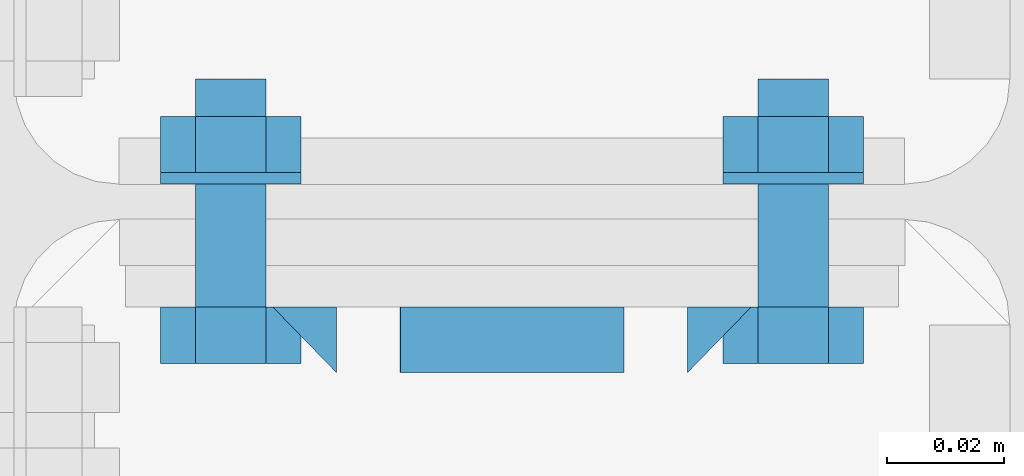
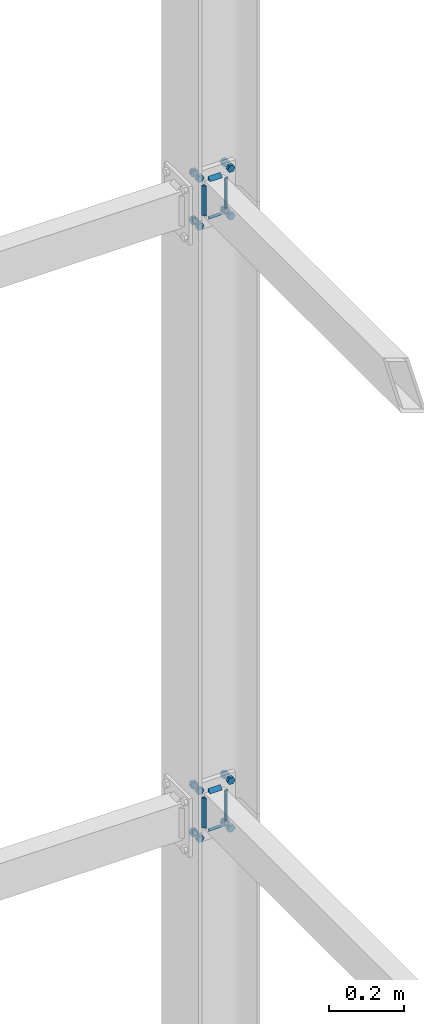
# One storey, part 226 of 251: 32 mechanical fasteners, 16 fasteners.
"""IFC4 building model written with IfcOpenShell, lengths in metres."""

from ifc_helpers import new_model, si_unit, frame, origin_with_axes, place, context, project, spatial, polyline, outline, extrude, type_object, element, save


model = new_model("IFC4")

# Units and contexts
model_context = context("Model", 3, precision=1e-05, world=origin_with_axes())
ifc_project = project(units=[si_unit("LENGTHUNIT", "METRE"), si_unit("AREAUNIT", "SQUARE_METRE"), si_unit("VOLUMEUNIT", "CUBIC_METRE"), si_unit("MASSUNIT", "GRAM", prefix="KILO"), si_unit("TIMEUNIT", "SECOND"), si_unit("PLANEANGLEUNIT", "RADIAN"), si_unit("SOLIDANGLEUNIT", "STERADIAN"), si_unit("THERMODYNAMICTEMPERATUREUNIT", "DEGREE_CELSIUS")], contexts=[model_context])

# Site, building, storey
placement_1 = place(None, origin_with_axes())
site = spatial("IfcSite", under=ifc_project, at=placement_1, Name="Italia", CompositionType="ELEMENT")
building = spatial("IfcBuilding", under=site, at=placement_1, Name="Deposito", CompositionType="ELEMENT")
storey = spatial("IfcBuildingStorey", under=building, at=placement_1, Name="Storey 0", CompositionType="ELEMENT", Elevation=0.0)

# Fasteners
fastener_type_1 = type_object("IfcFastenerType", Name="Collegamenti -001_-002 -002_-001 -002_-003 -003_-002 -003_-004 -004_-003 -004_-008 -008_-004 -009_-010 -010_-009 -010_-011 -011_-010 -011_-012 -012_-011 -012_-016 -016_-012", PredefinedType="WELD")
placement_2 = place(placement_1, origin_with_axes())
fastener_1_placement = place(placement_2, origin_with_axes())
element("IfcFastener", 1, at=fastener_1_placement, inside=storey, type_object=fastener_type_1, Name="Collegamenti -001_-002 -002_-001 -002_-003 -003_-002 -003_-004 -004_-003 -004_-008 -008_-004 -009_-010 -010_-009 -010_-011 -011_-010 -011_-012 -012_-011 -012_-016 -016_-012", context=model_context, shape_type="SweptSolid", body=[
    extrude(outline(polyline([(0.0, 0.0), (0.0111732, -0.0108382), (0.0, -0.0108382), (0.0, 0.0)])), frame((20.0191, 19.982, 1.07079), z_axis=(-1.0, 0.0, 0.0), x_axis=(0.0, -1.0, 0.0)), (0.0, 0.0, 1.0), 0.0381012),
])
fastener_type_2 = type_object("IfcFastenerType", Name="Collegamenti -001_-002 -002_-001 -002_-003 -003_-002 -003_-004 -004_-003 -004_-008 -008_-004 -009_-010 -010_-009 -010_-011 -011_-010 -011_-012 -012_-011 -012_-016 -016_-012", PredefinedType="WELD")
fastener_2_placement = place(placement_2, origin_with_axes())
element("IfcFastener", 2, at=fastener_2_placement, inside=storey, type_object=fastener_type_2, Name="Collegamenti -001_-002 -002_-001 -002_-003 -003_-002 -003_-004 -004_-003 -004_-008 -008_-004 -009_-010 -010_-009 -010_-011 -011_-010 -011_-012 -012_-011 -012_-016 -016_-012", context=model_context, shape_type="SweptSolid", body=[
    extrude(outline(polyline([(0.0, 0.0), (-0.0111732, 0.0108376), (0.0, 0.0108376), (0.0, 0.0)])), frame((20.0408, 19.982, 0.95095), z_axis=(0.0, 0.0, 1.0), x_axis=(0.0, 1.0, 0.0)), (0.0, 0.0, 1.0), 0.0980999),
])
fastener_type_3 = type_object("IfcFastenerType", Name="Collegamenti -001_-002 -002_-001 -002_-003 -003_-002 -003_-004 -004_-003 -004_-008 -008_-004 -009_-010 -010_-009 -010_-011 -011_-010 -011_-012 -012_-011 -012_-016 -016_-012", PredefinedType="WELD")
fastener_3_placement = place(placement_2, origin_with_axes())
element("IfcFastener", 3, at=fastener_3_placement, inside=storey, type_object=fastener_type_3, Name="Collegamenti -001_-002 -002_-001 -002_-003 -003_-002 -003_-004 -004_-003 -004_-008 -008_-004 -009_-010 -010_-009 -010_-011 -011_-010 -011_-012 -012_-011 -012_-016 -016_-012", context=model_context, shape_type="SweptSolid", body=[
    extrude(outline(polyline([(0.0, 0.0), (-0.0111732, 0.0108376), (0.0, 0.0108376), (0.0, 0.0)])), frame((19.9592, 19.982, 1.04905), z_axis=(0.0, 0.0, -1.0), x_axis=(0.0, 1.0, 0.0)), (0.0, 0.0, 1.0), 0.0980999),
])
fastener_type_4 = type_object("IfcFastenerType", Name="Collegamenti -001_-002 -002_-001 -002_-003 -003_-002 -003_-004 -004_-003 -004_-008 -008_-004 -009_-010 -010_-009 -010_-011 -011_-010 -011_-012 -012_-011 -012_-016 -016_-012", PredefinedType="WELD")
fastener_4_placement = place(placement_2, origin_with_axes())
element("IfcFastener", 4, at=fastener_4_placement, inside=storey, type_object=fastener_type_4, Name="Collegamenti -001_-002 -002_-001 -002_-003 -003_-002 -003_-004 -004_-003 -004_-008 -008_-004 -009_-010 -010_-009 -010_-011 -011_-010 -011_-012 -012_-011 -012_-016 -016_-012", context=model_context, shape_type="SweptSolid", body=[
    extrude(outline(polyline([(0.0, 0.0), (-0.0111732, 0.0108382), (0.0, 0.0108382), (0.0, 0.0)])), frame((19.9809, 19.982, 0.929212), z_axis=(1.0, 0.0, 0.0), x_axis=(0.0, 1.0, 0.0)), (0.0, 0.0, 1.0), 0.0381012),
])
fastener_type_5 = type_object("IfcFastenerType", Name="Collegamenti -001_-002 -002_-001 -002_-003 -003_-002 -003_-004 -004_-003 -004_-008 -008_-004 -009_-010 -010_-009 -010_-011 -011_-010 -011_-012 -012_-011 -012_-016 -016_-012", PredefinedType="WELD")
fastener_5_placement = place(placement_2, origin_with_axes())
element("IfcFastener", 5, at=fastener_5_placement, inside=storey, type_object=fastener_type_5, Name="Collegamenti -001_-002 -002_-001 -002_-003 -003_-002 -003_-004 -004_-003 -004_-008 -008_-004 -009_-010 -010_-009 -010_-011 -011_-010 -011_-012 -012_-011 -012_-016 -016_-012", context=model_context, shape_type="SweptSolid", body=[
    extrude(outline(polyline([(0.0, 0.0), (0.0111732, -0.0108382), (0.0, -0.0108382), (0.0, 0.0)])), frame((20.0191, 19.982, 1.07079), z_axis=(-1.0, 0.0, 0.0), x_axis=(0.0, -1.0, 0.0)), (0.0, 0.0, 1.0), 0.0381012),
])
fastener_type_6 = type_object("IfcFastenerType", Name="Collegamenti -001_-002 -002_-001 -002_-003 -003_-002 -003_-004 -004_-003 -004_-008 -008_-004 -009_-010 -010_-009 -010_-011 -011_-010 -011_-012 -012_-011 -012_-016 -016_-012", PredefinedType="WELD")
fastener_6_placement = place(placement_2, origin_with_axes())
element("IfcFastener", 6, at=fastener_6_placement, inside=storey, type_object=fastener_type_6, Name="Collegamenti -001_-002 -002_-001 -002_-003 -003_-002 -003_-004 -004_-003 -004_-008 -008_-004 -009_-010 -010_-009 -010_-011 -011_-010 -011_-012 -012_-011 -012_-016 -016_-012", context=model_context, shape_type="SweptSolid", body=[
    extrude(outline(polyline([(0.0, 0.0), (-0.0111732, 0.0108376), (0.0, 0.0108376), (0.0, 0.0)])), frame((20.0408, 19.982, 0.95095), z_axis=(0.0, 0.0, 1.0), x_axis=(0.0, 1.0, 0.0)), (0.0, 0.0, 1.0), 0.0980999),
])
fastener_type_7 = type_object("IfcFastenerType", Name="Collegamenti -001_-002 -002_-001 -002_-003 -003_-002 -003_-004 -004_-003 -004_-008 -008_-004 -009_-010 -010_-009 -010_-011 -011_-010 -011_-012 -012_-011 -012_-016 -016_-012", PredefinedType="WELD")
fastener_7_placement = place(placement_2, origin_with_axes())
element("IfcFastener", 7, at=fastener_7_placement, inside=storey, type_object=fastener_type_7, Name="Collegamenti -001_-002 -002_-001 -002_-003 -003_-002 -003_-004 -004_-003 -004_-008 -008_-004 -009_-010 -010_-009 -010_-011 -011_-010 -011_-012 -012_-011 -012_-016 -016_-012", context=model_context, shape_type="SweptSolid", body=[
    extrude(outline(polyline([(0.0, 0.0), (-0.0111732, 0.0108376), (0.0, 0.0108376), (0.0, 0.0)])), frame((19.9592, 19.982, 1.04905), z_axis=(0.0, 0.0, -1.0), x_axis=(0.0, 1.0, 0.0)), (0.0, 0.0, 1.0), 0.0980999),
])
fastener_type_8 = type_object("IfcFastenerType", Name="Collegamenti -001_-002 -002_-001 -002_-003 -003_-002 -003_-004 -004_-003 -004_-008 -008_-004 -009_-010 -010_-009 -010_-011 -011_-010 -011_-012 -012_-011 -012_-016 -016_-012", PredefinedType="WELD")
fastener_8_placement = place(placement_2, origin_with_axes())
element("IfcFastener", 8, at=fastener_8_placement, inside=storey, type_object=fastener_type_8, Name="Collegamenti -001_-002 -002_-001 -002_-003 -003_-002 -003_-004 -004_-003 -004_-008 -008_-004 -009_-010 -010_-009 -010_-011 -011_-010 -011_-012 -012_-011 -012_-016 -016_-012", context=model_context, shape_type="SweptSolid", body=[
    extrude(outline(polyline([(0.0, 0.0), (-0.0111732, 0.0108382), (0.0, 0.0108382), (0.0, 0.0)])), frame((19.9809, 19.982, 0.929212), z_axis=(1.0, 0.0, 0.0), x_axis=(0.0, 1.0, 0.0)), (0.0, 0.0, 1.0), 0.0381012),
])

# Mechanical fasteners
mechanical_fastener_type_1 = type_object("IfcMechanicalFastenerType", Name="Collegamenti -001_-002 -002_-001 -002_-003 -003_-002 -003_-004 -004_-003 -004_-008 -008_-004 -009_-010 -010_-009 -010_-011 -011_-010 -011_-012 -012_-011 -012_-016 -016_-012", PredefinedType="BOLT")
mechanical_fastener_1_placement = place(placement_2, origin_with_axes())
element("IfcMechanicalFastener", 9, at=mechanical_fastener_1_placement, inside=storey, type_object=mechanical_fastener_type_1, Name="Collegamenti -001_-002 -002_-001 -002_-003 -003_-002 -003_-004 -004_-003 -004_-008 -008_-004 -009_-010 -010_-009 -010_-011 -011_-010 -011_-012 -012_-011 -012_-016 -016_-012", NominalDiameter=0.0119993, context=model_context, shape_type="SweptSolid", body=[
    extrude(outline(polyline([(0.0, 0.0), (-0.012001, 0.0), (-0.0179996, 0.0103923), (-0.012001, 0.0207846), (0.0, 0.0207846), (0.00600052, 0.0103923), (0.0, 0.0)])), frame((19.958, 19.982, 0.911608), z_axis=(0.0, -1.0, 0.0), x_axis=(1.0, 0.0, 0.0)), (0.0, 0.0, 1.0), 0.00959969),
])
mechanical_fastener_type_2 = type_object("IfcMechanicalFastenerType", Name="Collegamenti -001_-002 -002_-001 -002_-003 -003_-002 -003_-004 -004_-003 -004_-008 -008_-004 -009_-010 -010_-009 -010_-011 -011_-010 -011_-012 -012_-011 -012_-016 -016_-012", PredefinedType="BOLT")
mechanical_fastener_2_placement = place(placement_2, origin_with_axes())
element("IfcMechanicalFastener", 10, at=mechanical_fastener_2_placement, inside=storey, type_object=mechanical_fastener_type_2, Name="Collegamenti -001_-002 -002_-001 -002_-003 -003_-002 -003_-004 -004_-003 -004_-008 -008_-004 -009_-010 -010_-009 -010_-011 -011_-010 -011_-012 -012_-011 -012_-016 -016_-012", NominalDiameter=0.012, context=model_context, shape_type="SweptSolid", body=[
    extrude(outline(polyline([(0.0, 0.0), (-0.000204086, -0.00155294), (-0.000804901, -0.00300002), (-0.00175858, -0.00424266), (-0.00300026, -0.00519615), (-0.00444794, -0.00579554), (-0.00600052, -0.00599998), (-0.0075531, -0.00579554), (-0.00900078, -0.00519615), (-0.0102425, -0.00424266), (-0.0111961, -0.00300002), (-0.011797, -0.00155294), (-0.012001, 0.0), (-0.011797, 0.00155294), (-0.0111961, 0.00300002), (-0.0102425, 0.00424266), (-0.00900078, 0.00519615), (-0.0075531, 0.00579554), (-0.00600052, 0.00599998), (-0.00444794, 0.00579554), (-0.00300026, 0.00519615), (-0.00175858, 0.00424266), (-0.000804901, 0.00300002), (-0.000204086, 0.00155294), (0.0, 0.0)])), frame((19.958, 20.021, 0.922), z_axis=(0.0, -1.0, 0.0), x_axis=(1.0, 0.0, 0.0)), (0.0, 0.0, 1.0), 0.0389996),
])
mechanical_fastener_type_3 = type_object("IfcMechanicalFastenerType", Name="Collegamenti -001_-002 -002_-001 -002_-003 -003_-002 -003_-004 -004_-003 -004_-008 -008_-004 -009_-010 -010_-009 -010_-011 -011_-010 -011_-012 -012_-011 -012_-016 -016_-012", PredefinedType="BOLT")
mechanical_fastener_3_placement = place(placement_2, origin_with_axes())
element("IfcMechanicalFastener", 11, at=mechanical_fastener_3_placement, inside=storey, type_object=mechanical_fastener_type_3, Name="Collegamenti -001_-002 -002_-001 -002_-003 -003_-002 -003_-004 -004_-003 -004_-008 -008_-004 -009_-010 -010_-009 -010_-011 -011_-010 -011_-012 -012_-011 -012_-016 -016_-012", NominalDiameter=0.0119993, context=model_context, shape_type="SweptSolid", body=[
    extrude(outline(polyline([(0.0, 0.0), (-0.012001, 0.0), (-0.0179996, 0.0103923), (-0.012001, 0.0207846), (0.0, 0.0207846), (0.00600052, 0.0103923), (0.0, 0.0)])), frame((19.958, 20.0146, 0.911608), z_axis=(0.0, -1.0, 0.0), x_axis=(1.0, 0.0, 0.0)), (0.0, 0.0, 1.0), 0.00960159),
])
mechanical_fastener_type_4 = type_object("IfcMechanicalFastenerType", Name="Collegamenti -001_-002 -002_-001 -002_-003 -003_-002 -003_-004 -004_-003 -004_-008 -008_-004 -009_-010 -010_-009 -010_-011 -011_-010 -011_-012 -012_-011 -012_-016 -016_-012", PredefinedType="BOLT")
mechanical_fastener_4_placement = place(placement_2, origin_with_axes())
element("IfcMechanicalFastener", 12, at=mechanical_fastener_4_placement, inside=storey, type_object=mechanical_fastener_type_4, Name="Collegamenti -001_-002 -002_-001 -002_-003 -003_-002 -003_-004 -004_-003 -004_-008 -008_-004 -009_-010 -010_-009 -010_-011 -011_-010 -011_-012 -012_-011 -012_-016 -016_-012", NominalDiameter=0.024, context=model_context, shape_type="SweptSolid", body=[
    extrude(outline(polyline([(0.0, 0.0), (-0.000408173, -0.00310582), (-0.00160599, -0.00599998), (-0.00351334, -0.00848526), (-0.00599861, -0.0103923), (-0.00889397, -0.0115911), (-0.0119991, -0.012), (-0.0151043, -0.0115911), (-0.0179996, -0.0103923), (-0.0204849, -0.00848526), (-0.0223923, -0.00599998), (-0.0235901, -0.00310582), (-0.0239983, 0.0), (-0.0235901, 0.00310582), (-0.0223923, 0.00599998), (-0.0204849, 0.00848526), (-0.0179996, 0.0103923), (-0.0151043, 0.0115911), (-0.0119991, 0.012), (-0.00889397, 0.0115911), (-0.00599861, 0.0103923), (-0.00351334, 0.00848526), (-0.00160599, 0.00599998), (-0.000408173, 0.00310582), (0.0, 0.0)])), frame((19.964, 20.005, 0.922), z_axis=(0.0, -1.0, 0.0), x_axis=(1.0, 0.0, 0.0)), (0.0, 0.0, 1.0), 0.0019989),
])
mechanical_fastener_type_5 = type_object("IfcMechanicalFastenerType", Name="Collegamenti -001_-002 -002_-001 -002_-003 -003_-002 -003_-004 -004_-003 -004_-008 -008_-004 -009_-010 -010_-009 -010_-011 -011_-010 -011_-012 -012_-011 -012_-016 -016_-012", PredefinedType="BOLT")
mechanical_fastener_5_placement = place(placement_2, origin_with_axes())
element("IfcMechanicalFastener", 13, at=mechanical_fastener_5_placement, inside=storey, type_object=mechanical_fastener_type_5, Name="Collegamenti -001_-002 -002_-001 -002_-003 -003_-002 -003_-004 -004_-003 -004_-008 -008_-004 -009_-010 -010_-009 -010_-011 -011_-010 -011_-012 -012_-011 -012_-016 -016_-012", NominalDiameter=0.0119993, context=model_context, shape_type="SweptSolid", body=[
    extrude(outline(polyline([(0.0, 0.0), (-0.012001, 0.0), (-0.0180016, 0.0103923), (-0.012001, 0.0207846), (0.0, 0.0207846), (0.00599861, 0.0103923), (0.0, 0.0)])), frame((20.054, 19.982, 0.911608), z_axis=(0.0, -1.0, 0.0), x_axis=(1.0, 0.0, 0.0)), (0.0, 0.0, 1.0), 0.00959969),
])
mechanical_fastener_type_6 = type_object("IfcMechanicalFastenerType", Name="Collegamenti -001_-002 -002_-001 -002_-003 -003_-002 -003_-004 -004_-003 -004_-008 -008_-004 -009_-010 -010_-009 -010_-011 -011_-010 -011_-012 -012_-011 -012_-016 -016_-012", PredefinedType="BOLT")
mechanical_fastener_6_placement = place(placement_2, origin_with_axes())
element("IfcMechanicalFastener", 14, at=mechanical_fastener_6_placement, inside=storey, type_object=mechanical_fastener_type_6, Name="Collegamenti -001_-002 -002_-001 -002_-003 -003_-002 -003_-004 -004_-003 -004_-008 -008_-004 -009_-010 -010_-009 -010_-011 -011_-010 -011_-012 -012_-011 -012_-016 -016_-012", NominalDiameter=0.012, context=model_context, shape_type="SweptSolid", body=[
    extrude(outline(polyline([(0.0, 0.0), (-0.000204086, -0.00155294), (-0.000804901, -0.00300002), (-0.00175858, -0.00424266), (-0.00300026, -0.00519615), (-0.00444794, -0.00579554), (-0.00600052, -0.00599998), (-0.0075531, -0.00579554), (-0.00900078, -0.00519615), (-0.0102425, -0.00424266), (-0.0111961, -0.00300002), (-0.011797, -0.00155294), (-0.012001, 0.0), (-0.011797, 0.00155294), (-0.0111961, 0.00300002), (-0.0102425, 0.00424266), (-0.00900078, 0.00519615), (-0.0075531, 0.00579554), (-0.00600052, 0.00599998), (-0.00444794, 0.00579554), (-0.00300026, 0.00519615), (-0.00175858, 0.00424266), (-0.000804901, 0.00300002), (-0.000204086, 0.00155294), (0.0, 0.0)])), frame((20.054, 20.021, 0.922), z_axis=(0.0, -1.0, 0.0), x_axis=(1.0, 0.0, 0.0)), (0.0, 0.0, 1.0), 0.0389996),
])
mechanical_fastener_type_7 = type_object("IfcMechanicalFastenerType", Name="Collegamenti -001_-002 -002_-001 -002_-003 -003_-002 -003_-004 -004_-003 -004_-008 -008_-004 -009_-010 -010_-009 -010_-011 -011_-010 -011_-012 -012_-011 -012_-016 -016_-012", PredefinedType="BOLT")
mechanical_fastener_7_placement = place(placement_2, origin_with_axes())
element("IfcMechanicalFastener", 15, at=mechanical_fastener_7_placement, inside=storey, type_object=mechanical_fastener_type_7, Name="Collegamenti -001_-002 -002_-001 -002_-003 -003_-002 -003_-004 -004_-003 -004_-008 -008_-004 -009_-010 -010_-009 -010_-011 -011_-010 -011_-012 -012_-011 -012_-016 -016_-012", NominalDiameter=0.0119993, context=model_context, shape_type="SweptSolid", body=[
    extrude(outline(polyline([(0.0, 0.0), (-0.012001, 0.0), (-0.0180016, 0.0103923), (-0.012001, 0.0207846), (0.0, 0.0207846), (0.00599861, 0.0103923), (0.0, 0.0)])), frame((20.054, 20.0146, 0.911608), z_axis=(0.0, -1.0, 0.0), x_axis=(1.0, 0.0, 0.0)), (0.0, 0.0, 1.0), 0.00960159),
])
mechanical_fastener_type_8 = type_object("IfcMechanicalFastenerType", Name="Collegamenti -001_-002 -002_-001 -002_-003 -003_-002 -003_-004 -004_-003 -004_-008 -008_-004 -009_-010 -010_-009 -010_-011 -011_-010 -011_-012 -012_-011 -012_-016 -016_-012", PredefinedType="BOLT")
mechanical_fastener_8_placement = place(placement_2, origin_with_axes())
element("IfcMechanicalFastener", 16, at=mechanical_fastener_8_placement, inside=storey, type_object=mechanical_fastener_type_8, Name="Collegamenti -001_-002 -002_-001 -002_-003 -003_-002 -003_-004 -004_-003 -004_-008 -008_-004 -009_-010 -010_-009 -010_-011 -011_-010 -011_-012 -012_-011 -012_-016 -016_-012", NominalDiameter=0.024, context=model_context, shape_type="SweptSolid", body=[
    extrude(outline(polyline([(0.0, 0.0), (-0.000408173, -0.00310582), (-0.00160599, -0.00599998), (-0.00351334, -0.00848526), (-0.00599861, -0.0103923), (-0.00889397, -0.0115911), (-0.0119991, -0.012), (-0.0151043, -0.0115911), (-0.0179996, -0.0103923), (-0.0204849, -0.00848526), (-0.0223923, -0.00599998), (-0.0235901, -0.00310582), (-0.0239983, 0.0), (-0.0235901, 0.00310582), (-0.0223923, 0.00599998), (-0.0204849, 0.00848526), (-0.0179996, 0.0103923), (-0.0151043, 0.0115911), (-0.0119991, 0.012), (-0.00889397, 0.0115911), (-0.00599861, 0.0103923), (-0.00351334, 0.00848526), (-0.00160599, 0.00599998), (-0.000408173, 0.00310582), (0.0, 0.0)])), frame((20.06, 20.005, 0.922), z_axis=(0.0, -1.0, 0.0), x_axis=(1.0, 0.0, 0.0)), (0.0, 0.0, 1.0), 0.0019989),
])
mechanical_fastener_type_9 = type_object("IfcMechanicalFastenerType", Name="Collegamenti -001_-002 -002_-001 -002_-003 -003_-002 -003_-004 -004_-003 -004_-008 -008_-004 -009_-010 -010_-009 -010_-011 -011_-010 -011_-012 -012_-011 -012_-016 -016_-012", PredefinedType="BOLT")
mechanical_fastener_9_placement = place(placement_2, origin_with_axes())
element("IfcMechanicalFastener", 17, at=mechanical_fastener_9_placement, inside=storey, type_object=mechanical_fastener_type_9, Name="Collegamenti -001_-002 -002_-001 -002_-003 -003_-002 -003_-004 -004_-003 -004_-008 -008_-004 -009_-010 -010_-009 -010_-011 -011_-010 -011_-012 -012_-011 -012_-016 -016_-012", NominalDiameter=0.0119993, context=model_context, shape_type="SweptSolid", body=[
    extrude(outline(polyline([(0.0, 0.0), (-0.012001, 0.0), (-0.0179996, 0.0103923), (-0.012001, 0.0207846), (0.0, 0.0207846), (0.00600052, 0.0103923), (0.0, 0.0)])), frame((19.958, 19.982, 1.06761), z_axis=(0.0, -1.0, 0.0), x_axis=(1.0, 0.0, 0.0)), (0.0, 0.0, 1.0), 0.00959969),
])
mechanical_fastener_type_10 = type_object("IfcMechanicalFastenerType", Name="Collegamenti -001_-002 -002_-001 -002_-003 -003_-002 -003_-004 -004_-003 -004_-008 -008_-004 -009_-010 -010_-009 -010_-011 -011_-010 -011_-012 -012_-011 -012_-016 -016_-012", PredefinedType="BOLT")
mechanical_fastener_10_placement = place(placement_2, origin_with_axes())
element("IfcMechanicalFastener", 18, at=mechanical_fastener_10_placement, inside=storey, type_object=mechanical_fastener_type_10, Name="Collegamenti -001_-002 -002_-001 -002_-003 -003_-002 -003_-004 -004_-003 -004_-008 -008_-004 -009_-010 -010_-009 -010_-011 -011_-010 -011_-012 -012_-011 -012_-016 -016_-012", NominalDiameter=0.012, context=model_context, shape_type="SweptSolid", body=[
    extrude(outline(polyline([(0.0, 0.0), (-0.000204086, -0.00155294), (-0.000804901, -0.00300002), (-0.00175858, -0.00424266), (-0.00300026, -0.00519609), (-0.00444794, -0.0057956), (-0.00600052, -0.00600004), (-0.0075531, -0.0057956), (-0.00900078, -0.00519609), (-0.0102425, -0.00424266), (-0.0111961, -0.00300002), (-0.011797, -0.00155294), (-0.012001, 0.0), (-0.011797, 0.00155294), (-0.0111961, 0.00300002), (-0.0102425, 0.00424266), (-0.00900078, 0.00519609), (-0.0075531, 0.0057956), (-0.00600052, 0.00600004), (-0.00444794, 0.0057956), (-0.00300026, 0.00519609), (-0.00175858, 0.00424266), (-0.000804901, 0.00300002), (-0.000204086, 0.00155294), (0.0, 0.0)])), frame((19.958, 20.021, 1.078), z_axis=(0.0, -1.0, 0.0), x_axis=(1.0, 0.0, 0.0)), (0.0, 0.0, 1.0), 0.0389996),
])
mechanical_fastener_type_11 = type_object("IfcMechanicalFastenerType", Name="Collegamenti -001_-002 -002_-001 -002_-003 -003_-002 -003_-004 -004_-003 -004_-008 -008_-004 -009_-010 -010_-009 -010_-011 -011_-010 -011_-012 -012_-011 -012_-016 -016_-012", PredefinedType="BOLT")
mechanical_fastener_11_placement = place(placement_2, origin_with_axes())
element("IfcMechanicalFastener", 19, at=mechanical_fastener_11_placement, inside=storey, type_object=mechanical_fastener_type_11, Name="Collegamenti -001_-002 -002_-001 -002_-003 -003_-002 -003_-004 -004_-003 -004_-008 -008_-004 -009_-010 -010_-009 -010_-011 -011_-010 -011_-012 -012_-011 -012_-016 -016_-012", NominalDiameter=0.0119993, context=model_context, shape_type="SweptSolid", body=[
    extrude(outline(polyline([(0.0, 0.0), (-0.012001, 0.0), (-0.0179996, 0.0103923), (-0.012001, 0.0207846), (0.0, 0.0207846), (0.00600052, 0.0103923), (0.0, 0.0)])), frame((19.958, 20.0146, 1.06761), z_axis=(0.0, -1.0, 0.0), x_axis=(1.0, 0.0, 0.0)), (0.0, 0.0, 1.0), 0.00960159),
])
mechanical_fastener_type_12 = type_object("IfcMechanicalFastenerType", Name="Collegamenti -001_-002 -002_-001 -002_-003 -003_-002 -003_-004 -004_-003 -004_-008 -008_-004 -009_-010 -010_-009 -010_-011 -011_-010 -011_-012 -012_-011 -012_-016 -016_-012", PredefinedType="BOLT")
mechanical_fastener_12_placement = place(placement_2, origin_with_axes())
element("IfcMechanicalFastener", 20, at=mechanical_fastener_12_placement, inside=storey, type_object=mechanical_fastener_type_12, Name="Collegamenti -001_-002 -002_-001 -002_-003 -003_-002 -003_-004 -004_-003 -004_-008 -008_-004 -009_-010 -010_-009 -010_-011 -011_-010 -011_-012 -012_-011 -012_-016 -016_-012", NominalDiameter=0.024, context=model_context, shape_type="SweptSolid", body=[
    extrude(outline(polyline([(0.0, 0.0), (-0.000408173, -0.00310588), (-0.00160599, -0.00600004), (-0.00351334, -0.00848532), (-0.00599861, -0.0103923), (-0.00889397, -0.0115911), (-0.0119991, -0.012), (-0.0151043, -0.0115911), (-0.0179996, -0.0103923), (-0.0204849, -0.00848532), (-0.0223923, -0.00600004), (-0.0235901, -0.00310588), (-0.0239983, 0.0), (-0.0235901, 0.00310588), (-0.0223923, 0.00600004), (-0.0204849, 0.00848532), (-0.0179996, 0.0103923), (-0.0151043, 0.0115911), (-0.0119991, 0.012), (-0.00889397, 0.0115911), (-0.00599861, 0.0103923), (-0.00351334, 0.00848532), (-0.00160599, 0.00600004), (-0.000408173, 0.00310588), (0.0, 0.0)])), frame((19.964, 20.005, 1.078), z_axis=(0.0, -1.0, 0.0), x_axis=(1.0, 0.0, 0.0)), (0.0, 0.0, 1.0), 0.0019989),
])
mechanical_fastener_type_13 = type_object("IfcMechanicalFastenerType", Name="Collegamenti -001_-002 -002_-001 -002_-003 -003_-002 -003_-004 -004_-003 -004_-008 -008_-004 -009_-010 -010_-009 -010_-011 -011_-010 -011_-012 -012_-011 -012_-016 -016_-012", PredefinedType="BOLT")
mechanical_fastener_13_placement = place(placement_2, origin_with_axes())
element("IfcMechanicalFastener", 21, at=mechanical_fastener_13_placement, inside=storey, type_object=mechanical_fastener_type_13, Name="Collegamenti -001_-002 -002_-001 -002_-003 -003_-002 -003_-004 -004_-003 -004_-008 -008_-004 -009_-010 -010_-009 -010_-011 -011_-010 -011_-012 -012_-011 -012_-016 -016_-012", NominalDiameter=0.0119993, context=model_context, shape_type="SweptSolid", body=[
    extrude(outline(polyline([(0.0, 0.0), (-0.012001, 0.0), (-0.0180016, 0.0103923), (-0.012001, 0.0207846), (0.0, 0.0207846), (0.00599861, 0.0103923), (0.0, 0.0)])), frame((20.054, 19.982, 1.06761), z_axis=(0.0, -1.0, 0.0), x_axis=(1.0, 0.0, 0.0)), (0.0, 0.0, 1.0), 0.00959969),
])
mechanical_fastener_type_14 = type_object("IfcMechanicalFastenerType", Name="Collegamenti -001_-002 -002_-001 -002_-003 -003_-002 -003_-004 -004_-003 -004_-008 -008_-004 -009_-010 -010_-009 -010_-011 -011_-010 -011_-012 -012_-011 -012_-016 -016_-012", PredefinedType="BOLT")
mechanical_fastener_14_placement = place(placement_2, origin_with_axes())
element("IfcMechanicalFastener", 22, at=mechanical_fastener_14_placement, inside=storey, type_object=mechanical_fastener_type_14, Name="Collegamenti -001_-002 -002_-001 -002_-003 -003_-002 -003_-004 -004_-003 -004_-008 -008_-004 -009_-010 -010_-009 -010_-011 -011_-010 -011_-012 -012_-011 -012_-016 -016_-012", NominalDiameter=0.012, context=model_context, shape_type="SweptSolid", body=[
    extrude(outline(polyline([(0.0, 0.0), (-0.000204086, -0.00155294), (-0.000804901, -0.00300002), (-0.00175858, -0.00424266), (-0.00300026, -0.00519609), (-0.00444794, -0.0057956), (-0.00600052, -0.00600004), (-0.0075531, -0.0057956), (-0.00900078, -0.00519609), (-0.0102425, -0.00424266), (-0.0111961, -0.00300002), (-0.011797, -0.00155294), (-0.012001, 0.0), (-0.011797, 0.00155294), (-0.0111961, 0.00300002), (-0.0102425, 0.00424266), (-0.00900078, 0.00519609), (-0.0075531, 0.0057956), (-0.00600052, 0.00600004), (-0.00444794, 0.0057956), (-0.00300026, 0.00519609), (-0.00175858, 0.00424266), (-0.000804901, 0.00300002), (-0.000204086, 0.00155294), (0.0, 0.0)])), frame((20.054, 20.021, 1.078), z_axis=(0.0, -1.0, 0.0), x_axis=(1.0, 0.0, 0.0)), (0.0, 0.0, 1.0), 0.0389996),
])
mechanical_fastener_type_15 = type_object("IfcMechanicalFastenerType", Name="Collegamenti -001_-002 -002_-001 -002_-003 -003_-002 -003_-004 -004_-003 -004_-008 -008_-004 -009_-010 -010_-009 -010_-011 -011_-010 -011_-012 -012_-011 -012_-016 -016_-012", PredefinedType="BOLT")
mechanical_fastener_15_placement = place(placement_2, origin_with_axes())
element("IfcMechanicalFastener", 23, at=mechanical_fastener_15_placement, inside=storey, type_object=mechanical_fastener_type_15, Name="Collegamenti -001_-002 -002_-001 -002_-003 -003_-002 -003_-004 -004_-003 -004_-008 -008_-004 -009_-010 -010_-009 -010_-011 -011_-010 -011_-012 -012_-011 -012_-016 -016_-012", NominalDiameter=0.0119993, context=model_context, shape_type="SweptSolid", body=[
    extrude(outline(polyline([(0.0, 0.0), (-0.012001, 0.0), (-0.0180016, 0.0103923), (-0.012001, 0.0207846), (0.0, 0.0207846), (0.00599861, 0.0103923), (0.0, 0.0)])), frame((20.054, 20.0146, 1.06761), z_axis=(0.0, -1.0, 0.0), x_axis=(1.0, 0.0, 0.0)), (0.0, 0.0, 1.0), 0.00960159),
])
mechanical_fastener_type_16 = type_object("IfcMechanicalFastenerType", Name="Collegamenti -001_-002 -002_-001 -002_-003 -003_-002 -003_-004 -004_-003 -004_-008 -008_-004 -009_-010 -010_-009 -010_-011 -011_-010 -011_-012 -012_-011 -012_-016 -016_-012", PredefinedType="BOLT")
mechanical_fastener_16_placement = place(placement_2, origin_with_axes())
element("IfcMechanicalFastener", 24, at=mechanical_fastener_16_placement, inside=storey, type_object=mechanical_fastener_type_16, Name="Collegamenti -001_-002 -002_-001 -002_-003 -003_-002 -003_-004 -004_-003 -004_-008 -008_-004 -009_-010 -010_-009 -010_-011 -011_-010 -011_-012 -012_-011 -012_-016 -016_-012", NominalDiameter=0.024, context=model_context, shape_type="SweptSolid", body=[
    extrude(outline(polyline([(0.0, 0.0), (-0.000408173, -0.00310588), (-0.00160599, -0.00600004), (-0.00351334, -0.00848532), (-0.00599861, -0.0103923), (-0.00889397, -0.0115911), (-0.0119991, -0.012), (-0.0151043, -0.0115911), (-0.0179996, -0.0103923), (-0.0204849, -0.00848532), (-0.0223923, -0.00600004), (-0.0235901, -0.00310588), (-0.0239983, 0.0), (-0.0235901, 0.00310588), (-0.0223923, 0.00600004), (-0.0204849, 0.00848532), (-0.0179996, 0.0103923), (-0.0151043, 0.0115911), (-0.0119991, 0.012), (-0.00889397, 0.0115911), (-0.00599861, 0.0103923), (-0.00351334, 0.00848532), (-0.00160599, 0.00600004), (-0.000408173, 0.00310588), (0.0, 0.0)])), frame((20.06, 20.005, 1.078), z_axis=(0.0, -1.0, 0.0), x_axis=(1.0, 0.0, 0.0)), (0.0, 0.0, 1.0), 0.0019989),
])

# Fasteners
fastener_type_9 = type_object("IfcFastenerType", Name="Collegamenti -001_-002 -002_-001 -002_-003 -003_-002 -003_-004 -004_-003 -004_-008 -008_-004 -009_-010 -010_-009 -010_-011 -011_-010 -011_-012 -012_-011 -012_-016 -016_-012", PredefinedType="WELD")
fastener_9_placement = place(placement_2, origin_with_axes())
element("IfcFastener", 25, at=fastener_9_placement, inside=storey, type_object=fastener_type_9, Name="Collegamenti -001_-002 -002_-001 -002_-003 -003_-002 -003_-004 -004_-003 -004_-008 -008_-004 -009_-010 -010_-009 -010_-011 -011_-010 -011_-012 -012_-011 -012_-016 -016_-012", context=model_context, shape_type="SweptSolid", body=[
    extrude(outline(polyline([(0.0, 0.0), (0.0111732, -0.0108383), (0.0, -0.0108383), (0.0, 0.0)])), frame((20.0191, 19.982, 3.07079), z_axis=(-1.0, 0.0, 0.0), x_axis=(0.0, -1.0, 0.0)), (0.0, 0.0, 1.0), 0.0381012),
])
fastener_type_10 = type_object("IfcFastenerType", Name="Collegamenti -001_-002 -002_-001 -002_-003 -003_-002 -003_-004 -004_-003 -004_-008 -008_-004 -009_-010 -010_-009 -010_-011 -011_-010 -011_-012 -012_-011 -012_-016 -016_-012", PredefinedType="WELD")
fastener_10_placement = place(placement_2, origin_with_axes())
element("IfcFastener", 26, at=fastener_10_placement, inside=storey, type_object=fastener_type_10, Name="Collegamenti -001_-002 -002_-001 -002_-003 -003_-002 -003_-004 -004_-003 -004_-008 -008_-004 -009_-010 -010_-009 -010_-011 -011_-010 -011_-012 -012_-011 -012_-016 -016_-012", context=model_context, shape_type="SweptSolid", body=[
    extrude(outline(polyline([(0.0, 0.0), (-0.0111732, 0.0108376), (0.0, 0.0108376), (0.0, 0.0)])), frame((20.0408, 19.982, 2.95095), z_axis=(0.0, 0.0, 1.0), x_axis=(0.0, 1.0, 0.0)), (0.0, 0.0, 1.0), 0.0980997),
])
fastener_type_11 = type_object("IfcFastenerType", Name="Collegamenti -001_-002 -002_-001 -002_-003 -003_-002 -003_-004 -004_-003 -004_-008 -008_-004 -009_-010 -010_-009 -010_-011 -011_-010 -011_-012 -012_-011 -012_-016 -016_-012", PredefinedType="WELD")
fastener_11_placement = place(placement_2, origin_with_axes())
element("IfcFastener", 27, at=fastener_11_placement, inside=storey, type_object=fastener_type_11, Name="Collegamenti -001_-002 -002_-001 -002_-003 -003_-002 -003_-004 -004_-003 -004_-008 -008_-004 -009_-010 -010_-009 -010_-011 -011_-010 -011_-012 -012_-011 -012_-016 -016_-012", context=model_context, shape_type="SweptSolid", body=[
    extrude(outline(polyline([(0.0, 0.0), (-0.0111732, 0.0108376), (0.0, 0.0108376), (0.0, 0.0)])), frame((19.9592, 19.982, 3.04905), z_axis=(0.0, 0.0, -1.0), x_axis=(0.0, 1.0, 0.0)), (0.0, 0.0, 1.0), 0.0980997),
])
fastener_type_12 = type_object("IfcFastenerType", Name="Collegamenti -001_-002 -002_-001 -002_-003 -003_-002 -003_-004 -004_-003 -004_-008 -008_-004 -009_-010 -010_-009 -010_-011 -011_-010 -011_-012 -012_-011 -012_-016 -016_-012", PredefinedType="WELD")
fastener_12_placement = place(placement_2, origin_with_axes())
element("IfcFastener", 28, at=fastener_12_placement, inside=storey, type_object=fastener_type_12, Name="Collegamenti -001_-002 -002_-001 -002_-003 -003_-002 -003_-004 -004_-003 -004_-008 -008_-004 -009_-010 -010_-009 -010_-011 -011_-010 -011_-012 -012_-011 -012_-016 -016_-012", context=model_context, shape_type="SweptSolid", body=[
    extrude(outline(polyline([(0.0, 0.0), (-0.0111732, 0.0108383), (0.0, 0.0108383), (0.0, 0.0)])), frame((19.9809, 19.982, 2.92921), z_axis=(1.0, 0.0, 0.0), x_axis=(0.0, 1.0, 0.0)), (0.0, 0.0, 1.0), 0.0381012),
])
fastener_type_13 = type_object("IfcFastenerType", Name="Collegamenti -001_-002 -002_-001 -002_-003 -003_-002 -003_-004 -004_-003 -004_-008 -008_-004 -009_-010 -010_-009 -010_-011 -011_-010 -011_-012 -012_-011 -012_-016 -016_-012", PredefinedType="WELD")
fastener_13_placement = place(placement_2, origin_with_axes())
element("IfcFastener", 29, at=fastener_13_placement, inside=storey, type_object=fastener_type_13, Name="Collegamenti -001_-002 -002_-001 -002_-003 -003_-002 -003_-004 -004_-003 -004_-008 -008_-004 -009_-010 -010_-009 -010_-011 -011_-010 -011_-012 -012_-011 -012_-016 -016_-012", context=model_context, shape_type="SweptSolid", body=[
    extrude(outline(polyline([(0.0, 0.0), (0.0111732, -0.0108383), (0.0, -0.0108383), (0.0, 0.0)])), frame((20.0191, 19.982, 3.07079), z_axis=(-1.0, 0.0, 0.0), x_axis=(0.0, -1.0, 0.0)), (0.0, 0.0, 1.0), 0.0381012),
])
fastener_type_14 = type_object("IfcFastenerType", Name="Collegamenti -001_-002 -002_-001 -002_-003 -003_-002 -003_-004 -004_-003 -004_-008 -008_-004 -009_-010 -010_-009 -010_-011 -011_-010 -011_-012 -012_-011 -012_-016 -016_-012", PredefinedType="WELD")
fastener_14_placement = place(placement_2, origin_with_axes())
element("IfcFastener", 30, at=fastener_14_placement, inside=storey, type_object=fastener_type_14, Name="Collegamenti -001_-002 -002_-001 -002_-003 -003_-002 -003_-004 -004_-003 -004_-008 -008_-004 -009_-010 -010_-009 -010_-011 -011_-010 -011_-012 -012_-011 -012_-016 -016_-012", context=model_context, shape_type="SweptSolid", body=[
    extrude(outline(polyline([(0.0, 0.0), (-0.0111732, 0.0108376), (0.0, 0.0108376), (0.0, 0.0)])), frame((20.0408, 19.982, 2.95095), z_axis=(0.0, 0.0, 1.0), x_axis=(0.0, 1.0, 0.0)), (0.0, 0.0, 1.0), 0.0980997),
])
fastener_type_15 = type_object("IfcFastenerType", Name="Collegamenti -001_-002 -002_-001 -002_-003 -003_-002 -003_-004 -004_-003 -004_-008 -008_-004 -009_-010 -010_-009 -010_-011 -011_-010 -011_-012 -012_-011 -012_-016 -016_-012", PredefinedType="WELD")
fastener_15_placement = place(placement_2, origin_with_axes())
element("IfcFastener", 31, at=fastener_15_placement, inside=storey, type_object=fastener_type_15, Name="Collegamenti -001_-002 -002_-001 -002_-003 -003_-002 -003_-004 -004_-003 -004_-008 -008_-004 -009_-010 -010_-009 -010_-011 -011_-010 -011_-012 -012_-011 -012_-016 -016_-012", context=model_context, shape_type="SweptSolid", body=[
    extrude(outline(polyline([(0.0, 0.0), (-0.0111732, 0.0108376), (0.0, 0.0108376), (0.0, 0.0)])), frame((19.9592, 19.982, 3.04905), z_axis=(0.0, 0.0, -1.0), x_axis=(0.0, 1.0, 0.0)), (0.0, 0.0, 1.0), 0.0980997),
])
fastener_type_16 = type_object("IfcFastenerType", Name="Collegamenti -001_-002 -002_-001 -002_-003 -003_-002 -003_-004 -004_-003 -004_-008 -008_-004 -009_-010 -010_-009 -010_-011 -011_-010 -011_-012 -012_-011 -012_-016 -016_-012", PredefinedType="WELD")
fastener_16_placement = place(placement_2, origin_with_axes())
element("IfcFastener", 32, at=fastener_16_placement, inside=storey, type_object=fastener_type_16, Name="Collegamenti -001_-002 -002_-001 -002_-003 -003_-002 -003_-004 -004_-003 -004_-008 -008_-004 -009_-010 -010_-009 -010_-011 -011_-010 -011_-012 -012_-011 -012_-016 -016_-012", context=model_context, shape_type="SweptSolid", body=[
    extrude(outline(polyline([(0.0, 0.0), (-0.0111732, 0.0108383), (0.0, 0.0108383), (0.0, 0.0)])), frame((19.9809, 19.982, 2.92921), z_axis=(1.0, 0.0, 0.0), x_axis=(0.0, 1.0, 0.0)), (0.0, 0.0, 1.0), 0.0381012),
])

# Mechanical fasteners
mechanical_fastener_type_17 = type_object("IfcMechanicalFastenerType", Name="Collegamenti -001_-002 -002_-001 -002_-003 -003_-002 -003_-004 -004_-003 -004_-008 -008_-004 -009_-010 -010_-009 -010_-011 -011_-010 -011_-012 -012_-011 -012_-016 -016_-012", PredefinedType="BOLT")
mechanical_fastener_17_placement = place(placement_2, origin_with_axes())
element("IfcMechanicalFastener", 33, at=mechanical_fastener_17_placement, inside=storey, type_object=mechanical_fastener_type_17, Name="Collegamenti -001_-002 -002_-001 -002_-003 -003_-002 -003_-004 -004_-003 -004_-008 -008_-004 -009_-010 -010_-009 -010_-011 -011_-010 -011_-012 -012_-011 -012_-016 -016_-012", NominalDiameter=0.0119992, context=model_context, shape_type="SweptSolid", body=[
    extrude(outline(polyline([(0.0, 0.0), (-0.012001, 0.0), (-0.0179996, 0.0103922), (-0.012001, 0.0207846), (0.0, 0.0207846), (0.00600052, 0.0103922), (0.0, 0.0)])), frame((19.958, 19.982, 2.91161), z_axis=(0.0, -1.0, 0.0), x_axis=(1.0, 0.0, 0.0)), (0.0, 0.0, 1.0), 0.00959969),
])
mechanical_fastener_type_18 = type_object("IfcMechanicalFastenerType", Name="Collegamenti -001_-002 -002_-001 -002_-003 -003_-002 -003_-004 -004_-003 -004_-008 -008_-004 -009_-010 -010_-009 -010_-011 -011_-010 -011_-012 -012_-011 -012_-016 -016_-012", PredefinedType="BOLT")
mechanical_fastener_18_placement = place(placement_2, origin_with_axes())
element("IfcMechanicalFastener", 34, at=mechanical_fastener_18_placement, inside=storey, type_object=mechanical_fastener_type_18, Name="Collegamenti -001_-002 -002_-001 -002_-003 -003_-002 -003_-004 -004_-003 -004_-008 -008_-004 -009_-010 -010_-009 -010_-011 -011_-010 -011_-012 -012_-011 -012_-016 -016_-012", NominalDiameter=0.012, context=model_context, shape_type="SweptSolid", body=[
    extrude(outline(polyline([(0.0, 0.0), (-0.000204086, -0.00155282), (-0.000804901, -0.00300002), (-0.00175858, -0.00424266), (-0.00300026, -0.00519609), (-0.00444794, -0.00579548), (-0.00600052, -0.00600004), (-0.0075531, -0.00579548), (-0.00900078, -0.00519609), (-0.0102425, -0.00424266), (-0.0111961, -0.00300002), (-0.011797, -0.00155282), (-0.012001, 0.0), (-0.011797, 0.00155282), (-0.0111961, 0.00300002), (-0.0102425, 0.00424266), (-0.00900078, 0.00519609), (-0.0075531, 0.00579548), (-0.00600052, 0.00600004), (-0.00444794, 0.00579548), (-0.00300026, 0.00519609), (-0.00175858, 0.00424266), (-0.000804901, 0.00300002), (-0.000204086, 0.00155282), (0.0, 0.0)])), frame((19.958, 20.021, 2.922), z_axis=(0.0, -1.0, 0.0), x_axis=(1.0, 0.0, 0.0)), (0.0, 0.0, 1.0), 0.0389996),
])
mechanical_fastener_type_19 = type_object("IfcMechanicalFastenerType", Name="Collegamenti -001_-002 -002_-001 -002_-003 -003_-002 -003_-004 -004_-003 -004_-008 -008_-004 -009_-010 -010_-009 -010_-011 -011_-010 -011_-012 -012_-011 -012_-016 -016_-012", PredefinedType="BOLT")
mechanical_fastener_19_placement = place(placement_2, origin_with_axes())
element("IfcMechanicalFastener", 35, at=mechanical_fastener_19_placement, inside=storey, type_object=mechanical_fastener_type_19, Name="Collegamenti -001_-002 -002_-001 -002_-003 -003_-002 -003_-004 -004_-003 -004_-008 -008_-004 -009_-010 -010_-009 -010_-011 -011_-010 -011_-012 -012_-011 -012_-016 -016_-012", NominalDiameter=0.0119992, context=model_context, shape_type="SweptSolid", body=[
    extrude(outline(polyline([(0.0, 0.0), (-0.012001, 0.0), (-0.0179996, 0.0103922), (-0.012001, 0.0207846), (0.0, 0.0207846), (0.00600052, 0.0103922), (0.0, 0.0)])), frame((19.958, 20.0146, 2.91161), z_axis=(0.0, -1.0, 0.0), x_axis=(1.0, 0.0, 0.0)), (0.0, 0.0, 1.0), 0.00960159),
])
mechanical_fastener_type_20 = type_object("IfcMechanicalFastenerType", Name="Collegamenti -001_-002 -002_-001 -002_-003 -003_-002 -003_-004 -004_-003 -004_-008 -008_-004 -009_-010 -010_-009 -010_-011 -011_-010 -011_-012 -012_-011 -012_-016 -016_-012", PredefinedType="BOLT")
mechanical_fastener_20_placement = place(placement_2, origin_with_axes())
element("IfcMechanicalFastener", 36, at=mechanical_fastener_20_placement, inside=storey, type_object=mechanical_fastener_type_20, Name="Collegamenti -001_-002 -002_-001 -002_-003 -003_-002 -003_-004 -004_-003 -004_-008 -008_-004 -009_-010 -010_-009 -010_-011 -011_-010 -011_-012 -012_-011 -012_-016 -016_-012", NominalDiameter=0.024, context=model_context, shape_type="SweptSolid", body=[
    extrude(outline(polyline([(0.0, 0.0), (-0.000408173, -0.00310588), (-0.00160599, -0.00600004), (-0.00351334, -0.00848532), (-0.00599861, -0.0103922), (-0.00889397, -0.0115912), (-0.0119991, -0.0120001), (-0.0151043, -0.0115912), (-0.0179996, -0.0103922), (-0.0204849, -0.00848532), (-0.0223923, -0.00600004), (-0.0235901, -0.00310588), (-0.0239983, 0.0), (-0.0235901, 0.00310588), (-0.0223923, 0.00600004), (-0.0204849, 0.00848532), (-0.0179996, 0.0103922), (-0.0151043, 0.0115912), (-0.0119991, 0.0120001), (-0.00889397, 0.0115912), (-0.00599861, 0.0103922), (-0.00351334, 0.00848532), (-0.00160599, 0.00600004), (-0.000408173, 0.00310588), (0.0, 0.0)])), frame((19.964, 20.005, 2.922), z_axis=(0.0, -1.0, 0.0), x_axis=(1.0, 0.0, 0.0)), (0.0, 0.0, 1.0), 0.0019989),
])
mechanical_fastener_type_21 = type_object("IfcMechanicalFastenerType", Name="Collegamenti -001_-002 -002_-001 -002_-003 -003_-002 -003_-004 -004_-003 -004_-008 -008_-004 -009_-010 -010_-009 -010_-011 -011_-010 -011_-012 -012_-011 -012_-016 -016_-012", PredefinedType="BOLT")
mechanical_fastener_21_placement = place(placement_2, origin_with_axes())
element("IfcMechanicalFastener", 37, at=mechanical_fastener_21_placement, inside=storey, type_object=mechanical_fastener_type_21, Name="Collegamenti -001_-002 -002_-001 -002_-003 -003_-002 -003_-004 -004_-003 -004_-008 -008_-004 -009_-010 -010_-009 -010_-011 -011_-010 -011_-012 -012_-011 -012_-016 -016_-012", NominalDiameter=0.0119992, context=model_context, shape_type="SweptSolid", body=[
    extrude(outline(polyline([(0.0, 0.0), (-0.012001, 0.0), (-0.0180016, 0.0103922), (-0.012001, 0.0207846), (0.0, 0.0207846), (0.00599861, 0.0103922), (0.0, 0.0)])), frame((20.054, 19.982, 2.91161), z_axis=(0.0, -1.0, 0.0), x_axis=(1.0, 0.0, 0.0)), (0.0, 0.0, 1.0), 0.00959969),
])
mechanical_fastener_type_22 = type_object("IfcMechanicalFastenerType", Name="Collegamenti -001_-002 -002_-001 -002_-003 -003_-002 -003_-004 -004_-003 -004_-008 -008_-004 -009_-010 -010_-009 -010_-011 -011_-010 -011_-012 -012_-011 -012_-016 -016_-012", PredefinedType="BOLT")
mechanical_fastener_22_placement = place(placement_2, origin_with_axes())
element("IfcMechanicalFastener", 38, at=mechanical_fastener_22_placement, inside=storey, type_object=mechanical_fastener_type_22, Name="Collegamenti -001_-002 -002_-001 -002_-003 -003_-002 -003_-004 -004_-003 -004_-008 -008_-004 -009_-010 -010_-009 -010_-011 -011_-010 -011_-012 -012_-011 -012_-016 -016_-012", NominalDiameter=0.012, context=model_context, shape_type="SweptSolid", body=[
    extrude(outline(polyline([(0.0, 0.0), (-0.000204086, -0.00155282), (-0.000804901, -0.00300002), (-0.00175858, -0.00424266), (-0.00300026, -0.00519609), (-0.00444794, -0.00579548), (-0.00600052, -0.00600004), (-0.0075531, -0.00579548), (-0.00900078, -0.00519609), (-0.0102425, -0.00424266), (-0.0111961, -0.00300002), (-0.011797, -0.00155282), (-0.012001, 0.0), (-0.011797, 0.00155282), (-0.0111961, 0.00300002), (-0.0102425, 0.00424266), (-0.00900078, 0.00519609), (-0.0075531, 0.00579548), (-0.00600052, 0.00600004), (-0.00444794, 0.00579548), (-0.00300026, 0.00519609), (-0.00175858, 0.00424266), (-0.000804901, 0.00300002), (-0.000204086, 0.00155282), (0.0, 0.0)])), frame((20.054, 20.021, 2.922), z_axis=(0.0, -1.0, 0.0), x_axis=(1.0, 0.0, 0.0)), (0.0, 0.0, 1.0), 0.0389996),
])
mechanical_fastener_type_23 = type_object("IfcMechanicalFastenerType", Name="Collegamenti -001_-002 -002_-001 -002_-003 -003_-002 -003_-004 -004_-003 -004_-008 -008_-004 -009_-010 -010_-009 -010_-011 -011_-010 -011_-012 -012_-011 -012_-016 -016_-012", PredefinedType="BOLT")
mechanical_fastener_23_placement = place(placement_2, origin_with_axes())
element("IfcMechanicalFastener", 39, at=mechanical_fastener_23_placement, inside=storey, type_object=mechanical_fastener_type_23, Name="Collegamenti -001_-002 -002_-001 -002_-003 -003_-002 -003_-004 -004_-003 -004_-008 -008_-004 -009_-010 -010_-009 -010_-011 -011_-010 -011_-012 -012_-011 -012_-016 -016_-012", NominalDiameter=0.0119992, context=model_context, shape_type="SweptSolid", body=[
    extrude(outline(polyline([(0.0, 0.0), (-0.012001, 0.0), (-0.0180016, 0.0103922), (-0.012001, 0.0207846), (0.0, 0.0207846), (0.00599861, 0.0103922), (0.0, 0.0)])), frame((20.054, 20.0146, 2.91161), z_axis=(0.0, -1.0, 0.0), x_axis=(1.0, 0.0, 0.0)), (0.0, 0.0, 1.0), 0.00960159),
])
mechanical_fastener_type_24 = type_object("IfcMechanicalFastenerType", Name="Collegamenti -001_-002 -002_-001 -002_-003 -003_-002 -003_-004 -004_-003 -004_-008 -008_-004 -009_-010 -010_-009 -010_-011 -011_-010 -011_-012 -012_-011 -012_-016 -016_-012", PredefinedType="BOLT")
mechanical_fastener_24_placement = place(placement_2, origin_with_axes())
element("IfcMechanicalFastener", 40, at=mechanical_fastener_24_placement, inside=storey, type_object=mechanical_fastener_type_24, Name="Collegamenti -001_-002 -002_-001 -002_-003 -003_-002 -003_-004 -004_-003 -004_-008 -008_-004 -009_-010 -010_-009 -010_-011 -011_-010 -011_-012 -012_-011 -012_-016 -016_-012", NominalDiameter=0.024, context=model_context, shape_type="SweptSolid", body=[
    extrude(outline(polyline([(0.0, 0.0), (-0.000408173, -0.00310588), (-0.00160599, -0.00600004), (-0.00351334, -0.00848532), (-0.00599861, -0.0103922), (-0.00889397, -0.0115912), (-0.0119991, -0.0120001), (-0.0151043, -0.0115912), (-0.0179996, -0.0103922), (-0.0204849, -0.00848532), (-0.0223923, -0.00600004), (-0.0235901, -0.00310588), (-0.0239983, 0.0), (-0.0235901, 0.00310588), (-0.0223923, 0.00600004), (-0.0204849, 0.00848532), (-0.0179996, 0.0103922), (-0.0151043, 0.0115912), (-0.0119991, 0.0120001), (-0.00889397, 0.0115912), (-0.00599861, 0.0103922), (-0.00351334, 0.00848532), (-0.00160599, 0.00600004), (-0.000408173, 0.00310588), (0.0, 0.0)])), frame((20.06, 20.005, 2.922), z_axis=(0.0, -1.0, 0.0), x_axis=(1.0, 0.0, 0.0)), (0.0, 0.0, 1.0), 0.0019989),
])
mechanical_fastener_type_25 = type_object("IfcMechanicalFastenerType", Name="Collegamenti -001_-002 -002_-001 -002_-003 -003_-002 -003_-004 -004_-003 -004_-008 -008_-004 -009_-010 -010_-009 -010_-011 -011_-010 -011_-012 -012_-011 -012_-016 -016_-012", PredefinedType="BOLT")
mechanical_fastener_25_placement = place(placement_2, origin_with_axes())
element("IfcMechanicalFastener", 41, at=mechanical_fastener_25_placement, inside=storey, type_object=mechanical_fastener_type_25, Name="Collegamenti -001_-002 -002_-001 -002_-003 -003_-002 -003_-004 -004_-003 -004_-008 -008_-004 -009_-010 -010_-009 -010_-011 -011_-010 -011_-012 -012_-011 -012_-016 -016_-012", NominalDiameter=0.0119992, context=model_context, shape_type="SweptSolid", body=[
    extrude(outline(polyline([(0.0, 0.0), (-0.012001, 0.0), (-0.0179996, 0.0103924), (-0.012001, 0.0207846), (0.0, 0.0207846), (0.00600052, 0.0103924), (0.0, 0.0)])), frame((19.958, 19.982, 3.06761), z_axis=(0.0, -1.0, 0.0), x_axis=(1.0, 0.0, 0.0)), (0.0, 0.0, 1.0), 0.00959969),
])
mechanical_fastener_type_26 = type_object("IfcMechanicalFastenerType", Name="Collegamenti -001_-002 -002_-001 -002_-003 -003_-002 -003_-004 -004_-003 -004_-008 -008_-004 -009_-010 -010_-009 -010_-011 -011_-010 -011_-012 -012_-011 -012_-016 -016_-012", PredefinedType="BOLT")
mechanical_fastener_26_placement = place(placement_2, origin_with_axes())
element("IfcMechanicalFastener", 42, at=mechanical_fastener_26_placement, inside=storey, type_object=mechanical_fastener_type_26, Name="Collegamenti -001_-002 -002_-001 -002_-003 -003_-002 -003_-004 -004_-003 -004_-008 -008_-004 -009_-010 -010_-009 -010_-011 -011_-010 -011_-012 -012_-011 -012_-016 -016_-012", NominalDiameter=0.012, context=model_context, shape_type="SweptSolid", body=[
    extrude(outline(polyline([(0.0, 0.0), (-0.000204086, -0.00155282), (-0.000804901, -0.00300002), (-0.00175858, -0.00424266), (-0.00300026, -0.00519609), (-0.00444794, -0.00579548), (-0.00600052, -0.00600004), (-0.0075531, -0.00579548), (-0.00900078, -0.00519609), (-0.0102425, -0.00424266), (-0.0111961, -0.00300002), (-0.011797, -0.00155282), (-0.012001, 0.0), (-0.011797, 0.00155282), (-0.0111961, 0.00300002), (-0.0102425, 0.00424266), (-0.00900078, 0.00519609), (-0.0075531, 0.00579548), (-0.00600052, 0.00600004), (-0.00444794, 0.00579548), (-0.00300026, 0.00519609), (-0.00175858, 0.00424266), (-0.000804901, 0.00300002), (-0.000204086, 0.00155282), (0.0, 0.0)])), frame((19.958, 20.021, 3.078), z_axis=(0.0, -1.0, 0.0), x_axis=(1.0, 0.0, 0.0)), (0.0, 0.0, 1.0), 0.0389996),
])
mechanical_fastener_type_27 = type_object("IfcMechanicalFastenerType", Name="Collegamenti -001_-002 -002_-001 -002_-003 -003_-002 -003_-004 -004_-003 -004_-008 -008_-004 -009_-010 -010_-009 -010_-011 -011_-010 -011_-012 -012_-011 -012_-016 -016_-012", PredefinedType="BOLT")
mechanical_fastener_27_placement = place(placement_2, origin_with_axes())
element("IfcMechanicalFastener", 43, at=mechanical_fastener_27_placement, inside=storey, type_object=mechanical_fastener_type_27, Name="Collegamenti -001_-002 -002_-001 -002_-003 -003_-002 -003_-004 -004_-003 -004_-008 -008_-004 -009_-010 -010_-009 -010_-011 -011_-010 -011_-012 -012_-011 -012_-016 -016_-012", NominalDiameter=0.0119992, context=model_context, shape_type="SweptSolid", body=[
    extrude(outline(polyline([(0.0, 0.0), (-0.012001, 0.0), (-0.0179996, 0.0103924), (-0.012001, 0.0207846), (0.0, 0.0207846), (0.00600052, 0.0103924), (0.0, 0.0)])), frame((19.958, 20.0146, 3.06761), z_axis=(0.0, -1.0, 0.0), x_axis=(1.0, 0.0, 0.0)), (0.0, 0.0, 1.0), 0.00960159),
])
mechanical_fastener_type_28 = type_object("IfcMechanicalFastenerType", Name="Collegamenti -001_-002 -002_-001 -002_-003 -003_-002 -003_-004 -004_-003 -004_-008 -008_-004 -009_-010 -010_-009 -010_-011 -011_-010 -011_-012 -012_-011 -012_-016 -016_-012", PredefinedType="BOLT")
mechanical_fastener_28_placement = place(placement_2, origin_with_axes())
element("IfcMechanicalFastener", 44, at=mechanical_fastener_28_placement, inside=storey, type_object=mechanical_fastener_type_28, Name="Collegamenti -001_-002 -002_-001 -002_-003 -003_-002 -003_-004 -004_-003 -004_-008 -008_-004 -009_-010 -010_-009 -010_-011 -011_-010 -011_-012 -012_-011 -012_-016 -016_-012", NominalDiameter=0.024, context=model_context, shape_type="SweptSolid", body=[
    extrude(outline(polyline([(0.0, 0.0), (-0.000408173, -0.00310588), (-0.00160599, -0.00600004), (-0.00351334, -0.00848532), (-0.00599861, -0.0103922), (-0.00889397, -0.0115912), (-0.0119991, -0.0120001), (-0.0151043, -0.0115912), (-0.0179996, -0.0103922), (-0.0204849, -0.00848532), (-0.0223923, -0.00600004), (-0.0235901, -0.00310588), (-0.0239983, 0.0), (-0.0235901, 0.00310588), (-0.0223923, 0.00600004), (-0.0204849, 0.00848532), (-0.0179996, 0.0103922), (-0.0151043, 0.0115912), (-0.0119991, 0.0120001), (-0.00889397, 0.0115912), (-0.00599861, 0.0103922), (-0.00351334, 0.00848532), (-0.00160599, 0.00600004), (-0.000408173, 0.00310588), (0.0, 0.0)])), frame((19.964, 20.005, 3.078), z_axis=(0.0, -1.0, 0.0), x_axis=(1.0, 0.0, 0.0)), (0.0, 0.0, 1.0), 0.0019989),
])
mechanical_fastener_type_29 = type_object("IfcMechanicalFastenerType", Name="Collegamenti -001_-002 -002_-001 -002_-003 -003_-002 -003_-004 -004_-003 -004_-008 -008_-004 -009_-010 -010_-009 -010_-011 -011_-010 -011_-012 -012_-011 -012_-016 -016_-012", PredefinedType="BOLT")
mechanical_fastener_29_placement = place(placement_2, origin_with_axes())
element("IfcMechanicalFastener", 45, at=mechanical_fastener_29_placement, inside=storey, type_object=mechanical_fastener_type_29, Name="Collegamenti -001_-002 -002_-001 -002_-003 -003_-002 -003_-004 -004_-003 -004_-008 -008_-004 -009_-010 -010_-009 -010_-011 -011_-010 -011_-012 -012_-011 -012_-016 -016_-012", NominalDiameter=0.0119992, context=model_context, shape_type="SweptSolid", body=[
    extrude(outline(polyline([(0.0, 0.0), (-0.012001, 0.0), (-0.0180016, 0.0103924), (-0.012001, 0.0207846), (0.0, 0.0207846), (0.00599861, 0.0103924), (0.0, 0.0)])), frame((20.054, 19.982, 3.06761), z_axis=(0.0, -1.0, 0.0), x_axis=(1.0, 0.0, 0.0)), (0.0, 0.0, 1.0), 0.00959969),
])
mechanical_fastener_type_30 = type_object("IfcMechanicalFastenerType", Name="Collegamenti -001_-002 -002_-001 -002_-003 -003_-002 -003_-004 -004_-003 -004_-008 -008_-004 -009_-010 -010_-009 -010_-011 -011_-010 -011_-012 -012_-011 -012_-016 -016_-012", PredefinedType="BOLT")
mechanical_fastener_30_placement = place(placement_2, origin_with_axes())
element("IfcMechanicalFastener", 46, at=mechanical_fastener_30_placement, inside=storey, type_object=mechanical_fastener_type_30, Name="Collegamenti -001_-002 -002_-001 -002_-003 -003_-002 -003_-004 -004_-003 -004_-008 -008_-004 -009_-010 -010_-009 -010_-011 -011_-010 -011_-012 -012_-011 -012_-016 -016_-012", NominalDiameter=0.012, context=model_context, shape_type="SweptSolid", body=[
    extrude(outline(polyline([(0.0, 0.0), (-0.000204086, -0.00155282), (-0.000804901, -0.00300002), (-0.00175858, -0.00424266), (-0.00300026, -0.00519609), (-0.00444794, -0.00579548), (-0.00600052, -0.00600004), (-0.0075531, -0.00579548), (-0.00900078, -0.00519609), (-0.0102425, -0.00424266), (-0.0111961, -0.00300002), (-0.011797, -0.00155282), (-0.012001, 0.0), (-0.011797, 0.00155282), (-0.0111961, 0.00300002), (-0.0102425, 0.00424266), (-0.00900078, 0.00519609), (-0.0075531, 0.00579548), (-0.00600052, 0.00600004), (-0.00444794, 0.00579548), (-0.00300026, 0.00519609), (-0.00175858, 0.00424266), (-0.000804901, 0.00300002), (-0.000204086, 0.00155282), (0.0, 0.0)])), frame((20.054, 20.021, 3.078), z_axis=(0.0, -1.0, 0.0), x_axis=(1.0, 0.0, 0.0)), (0.0, 0.0, 1.0), 0.0389996),
])
mechanical_fastener_type_31 = type_object("IfcMechanicalFastenerType", Name="Collegamenti -001_-002 -002_-001 -002_-003 -003_-002 -003_-004 -004_-003 -004_-008 -008_-004 -009_-010 -010_-009 -010_-011 -011_-010 -011_-012 -012_-011 -012_-016 -016_-012", PredefinedType="BOLT")
mechanical_fastener_31_placement = place(placement_2, origin_with_axes())
element("IfcMechanicalFastener", 47, at=mechanical_fastener_31_placement, inside=storey, type_object=mechanical_fastener_type_31, Name="Collegamenti -001_-002 -002_-001 -002_-003 -003_-002 -003_-004 -004_-003 -004_-008 -008_-004 -009_-010 -010_-009 -010_-011 -011_-010 -011_-012 -012_-011 -012_-016 -016_-012", NominalDiameter=0.0119992, context=model_context, shape_type="SweptSolid", body=[
    extrude(outline(polyline([(0.0, 0.0), (-0.012001, 0.0), (-0.0180016, 0.0103924), (-0.012001, 0.0207846), (0.0, 0.0207846), (0.00599861, 0.0103924), (0.0, 0.0)])), frame((20.054, 20.0146, 3.06761), z_axis=(0.0, -1.0, 0.0), x_axis=(1.0, 0.0, 0.0)), (0.0, 0.0, 1.0), 0.00960159),
])
mechanical_fastener_type_32 = type_object("IfcMechanicalFastenerType", Name="Collegamenti -001_-002 -002_-001 -002_-003 -003_-002 -003_-004 -004_-003 -004_-008 -008_-004 -009_-010 -010_-009 -010_-011 -011_-010 -011_-012 -012_-011 -012_-016 -016_-012", PredefinedType="BOLT")
mechanical_fastener_32_placement = place(placement_2, origin_with_axes())
element("IfcMechanicalFastener", 48, at=mechanical_fastener_32_placement, inside=storey, type_object=mechanical_fastener_type_32, Name="Collegamenti -001_-002 -002_-001 -002_-003 -003_-002 -003_-004 -004_-003 -004_-008 -008_-004 -009_-010 -010_-009 -010_-011 -011_-010 -011_-012 -012_-011 -012_-016 -016_-012", NominalDiameter=0.024, context=model_context, shape_type="SweptSolid", body=[
    extrude(outline(polyline([(0.0, 0.0), (-0.000408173, -0.00310588), (-0.00160599, -0.00600004), (-0.00351334, -0.00848532), (-0.00599861, -0.0103922), (-0.00889397, -0.0115912), (-0.0119991, -0.0120001), (-0.0151043, -0.0115912), (-0.0179996, -0.0103922), (-0.0204849, -0.00848532), (-0.0223923, -0.00600004), (-0.0235901, -0.00310588), (-0.0239983, 0.0), (-0.0235901, 0.00310588), (-0.0223923, 0.00600004), (-0.0204849, 0.00848532), (-0.0179996, 0.0103922), (-0.0151043, 0.0115912), (-0.0119991, 0.0120001), (-0.00889397, 0.0115912), (-0.00599861, 0.0103922), (-0.00351334, 0.00848532), (-0.00160599, 0.00600004), (-0.000408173, 0.00310588), (0.0, 0.0)])), frame((20.06, 20.005, 3.078), z_axis=(0.0, -1.0, 0.0), x_axis=(1.0, 0.0, 0.0)), (0.0, 0.0, 1.0), 0.0019989),
])

save(model, "model.ifc")
